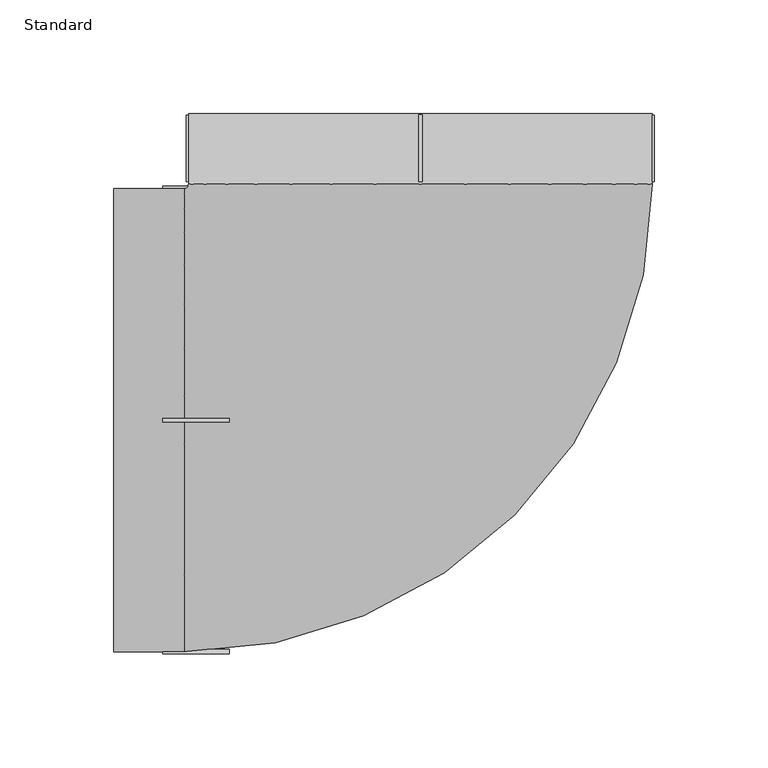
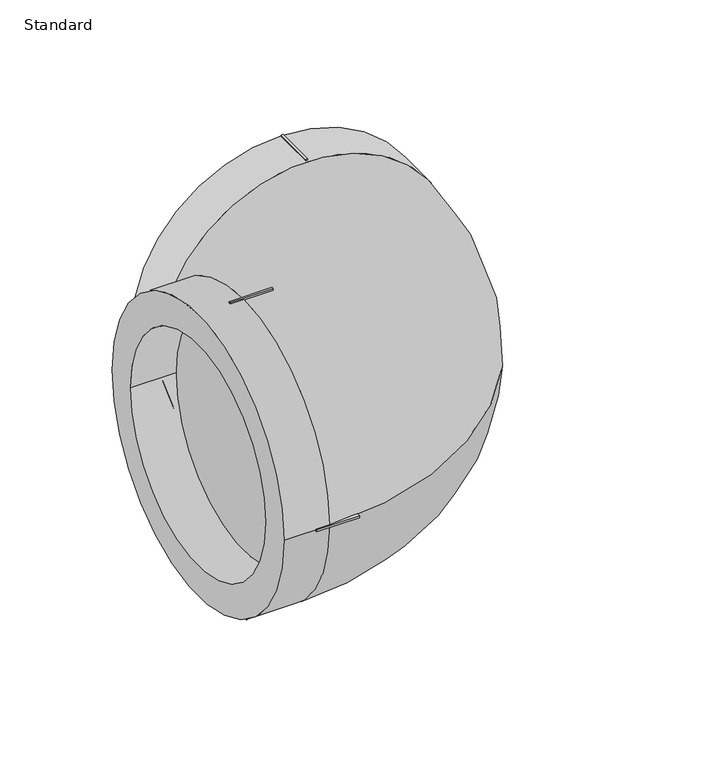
"""IFC4 building model written with IfcOpenShell, lengths in millimetres: pipe fitting geometry, EGB_VASEN_ PPR_Codo 90 WXR200_Codo 45 WXR220  : Standard."""

from ifc_helpers import new_model, si_unit, point, frame, origin, place, context, project, spatial, polyline, circle_curve, ellipse_curve, trimmed, outline, extrude, source, transform, mapped, element, save
from ifc_brep_helpers import plane_surface, cylinder_surface, revolved_surface, advanced_brep


def standard_11483cf7(model_context):
    return source(origin(), model_context, "Body", "SolidModel", [
        advanced_brep(
        [(-135.0, -102.0, 0.0), (-135.0, 102.0, 0.0), (-135.0, -80.0, 0.0), (-135.0, 80.0, 0.0), (-104.0, -102.0, 0.0), (-104.0, 102.0, 0.0), (-104.0, -80.0, 0.0), (-104.0, 80.0, 0.0), (80.0, 104.0, 0.0), (-80.0, 104.0, 0.0), (-102.0, 104.0, 0.0), (102.0, 104.0, 0.0), (0.0, 104.0, 102.0), (0.0, 104.0, -102.0), (102.0, 135.0, 0.0), (-102.0, 135.0, 0.0), (80.0, 135.0, 0.0), (-80.0, 135.0, 0.0)],
        [
            (0, 1, circle_curve(frame((-135.0, 0.0, 0.0), z_axis=(-1.0, 0.0, 0.0), x_axis=(0.0, 1.0, 0.0)), 102.0)),
            (1, 0, circle_curve(frame((-135.0, 0.0, 0.0), z_axis=(-1.0, 0.0, 0.0), x_axis=(0.0, 1.0, 0.0)), 102.0)),
            (2, 3, circle_curve(frame((-135.0, 0.0, 0.0), z_axis=(1.0, 0.0, 0.0), x_axis=(0.0, 1.0, 0.0)), 80.0)),
            (3, 2, circle_curve(frame((-135.0, 0.0, 0.0), z_axis=(1.0, 0.0, 0.0), x_axis=(0.0, 1.0, 0.0)), 80.0)),
            (0, 4),
            (4, 5, circle_curve(frame((-104.0, 0.0, 0.0), z_axis=(-1.0, 0.0, 0.0), x_axis=(0.0, 1.0, 0.0)), 102.0)),
            (5, 1),
            (5, 4, circle_curve(frame((-104.0, 0.0, 0.0), z_axis=(-1.0, 0.0, 0.0), x_axis=(0.0, 1.0, 0.0)), 102.0)),
            (2, 6),
            (6, 7, circle_curve(frame((-104.0, 0.0, 0.0), z_axis=(1.0, 0.0, 0.0), x_axis=(0.0, 1.0, 0.0)), 80.0)),
            (7, 3),
            (7, 6, circle_curve(frame((-104.0, 0.0, 0.0), z_axis=(1.0, 0.0, 0.0), x_axis=(0.0, 1.0, 0.0)), 80.0)),
            (8, 9, circle_curve(frame((0.0, 104.0, 0.0), z_axis=(0.0, 1.0, 0.0), x_axis=(-1.0, 0.0, 0.0)), 80.0)),
            (9, 8, circle_curve(frame((0.0, 104.0, 0.0), z_axis=(0.0, 1.0, 0.0), x_axis=(-1.0, 0.0, 0.0)), 80.0)),
            (10, 5, circle_curve(frame((-104.0, 104.0, 0.0), z_axis=(0.0, 0.0, -1.0), x_axis=(0.0, -1.0, 0.0)), 2.0)),
            (4, 11, circle_curve(frame((-104.0, 104.0, 0.0), z_axis=(0.0, 0.0, 1.0), x_axis=(0.0, -1.0, 0.0)), 206.0)),
            (11, 12, circle_curve(frame((0.0, 104.0, 0.0), z_axis=(0.0, -1.0, 0.0), x_axis=(-1.0, 0.0, 0.0)), 102.0)),
            (12, 10, circle_curve(frame((0.0, 104.0, 0.0), z_axis=(0.0, -1.0, 0.0), x_axis=(-1.0, 0.0, 0.0)), 102.0)),
            (10, 13, circle_curve(frame((0.0, 104.0, 0.0), z_axis=(0.0, -1.0, 0.0), x_axis=(-1.0, 0.0, 0.0)), 102.0)),
            (13, 11, circle_curve(frame((0.0, 104.0, 0.0), z_axis=(0.0, -1.0, 0.0), x_axis=(-1.0, 0.0, 0.0)), 102.0)),
            (14, 15, circle_curve(frame((0.0, 135.0, 0.0), z_axis=(0.0, 1.0, 0.0), x_axis=(-1.0, 0.0, 0.0)), 102.0)),
            (15, 14, circle_curve(frame((0.0, 135.0, 0.0), z_axis=(0.0, 1.0, 0.0), x_axis=(-1.0, 0.0, 0.0)), 102.0)),
            (16, 17, circle_curve(frame((0.0, 135.0, 0.0), z_axis=(0.0, -1.0, 0.0), x_axis=(-1.0, 0.0, 0.0)), 80.0)),
            (17, 16, circle_curve(frame((0.0, 135.0, 0.0), z_axis=(0.0, -1.0, 0.0), x_axis=(-1.0, 0.0, 0.0)), 80.0)),
            (15, 10),
            (11, 14),
            (17, 9),
            (8, 16),
        ],
        [
            plane_surface(frame((-135.0, 0.0, 0.0), z_axis=(-1.0, 0.0, 0.0), x_axis=(0.0, 0.0, 1.0))),
            cylinder_surface(frame((-135.0, 0.0, 0.0), z_axis=(-1.0, 0.0, 0.0), x_axis=(0.0, 1.0, 0.0)), 102.0),
            revolved_surface(polyline([(-104.0, 80.0, 0.0), (-135.0, 80.0, 0.0)]), (-135.0, 0.0, 0.0), (1.0, 0.0, 0.0)),
            plane_surface(frame((-104.0, 0.0, 0.0), z_axis=(-1.0, 0.0, 0.0), x_axis=(0.0, 0.0, 1.0))),
            plane_surface(frame((0.0, 104.0, 0.0), z_axis=(0.0, 1.0, 0.0), x_axis=(0.0, 0.0, 1.0))),
            revolved_surface(trimmed(ellipse_curve(frame((-104.0, 0.0, 0.0), z_axis=(-1.0, 0.0, 0.0), x_axis=(0.0, 1.0, 0.0)), 102.0, 102.0), [point((-104.0, -102.0, 0.0))], [point((-104.0, 102.0, 0.0))], True, "CARTESIAN"), (-104.0, 104.0, 0.0), (0.0, 0.0, 1.0)),
            revolved_surface(trimmed(ellipse_curve(frame((-104.0, 0.0, 0.0), z_axis=(-1.0, 0.0, 0.0), x_axis=(0.0, 1.0, 0.0)), 102.0, 102.0), [point((-104.0, 102.0, 0.0))], [point((-104.0, -102.0, 0.0))], True, "CARTESIAN"), (-104.0, 104.0, 0.0), (0.0, 0.0, 1.0)),
            plane_surface(frame((0.0, 135.0, 0.0), z_axis=(0.0, 1.0, 0.0), x_axis=(0.0, 0.0, 1.0))),
            cylinder_surface(frame((0.0, 104.0, 0.0), z_axis=(0.0, -1.0, 0.0), x_axis=(-1.0, 0.0, 0.0)), 102.0),
            revolved_surface(polyline([(-80.0, 135.0, 0.0), (-80.0, 104.0, 0.0)]), (0.0, 104.0, 0.0), (0.0, 1.0, 0.0)),
        ],
        [
            (0, [[1, 2], [3, 4]]),
            (1, [[-1, 5, 6, 7]]),
            (1, [[-2, -7, 8, -5]]),
            (2, [[-3, 9, 10, 11]]),
            (2, [[-4, -11, 12, -9]]),
            (3, [[-10, -12]]),
            (4, [[13, 14]]),
            (5, [[15, -6, 16, 17, 18]]),
            (6, [[-15, 19, 20, -16, -8]]),
            (7, [[21, 22], [23, 24]]),
            (8, [[-22, 25, -18, -17, 26]]),
            (8, [[-21, -26, -20, -19, -25]]),
            (9, [[-24, 27, -13, 28]]),
            (9, [[-23, -28, -14, -27]]),
        ],
    ),
        extrude(outline(polyline([(0.75, 105.0), (-0.75, 105.0), (-0.75, 134.4), (0.75, 134.4), (0.75, 105.0)])), frame((0.0, 0.0, 101.0), z_axis=(0.0, 0.0, 1.0), x_axis=(1.0, 0.0, 0.0)), (0.0, 0.0, 1.0), 2.0),
        extrude(outline(polyline([(-101.0, 105.0), (-103.0, 105.0), (-103.0, 134.4), (-101.0, 134.4), (-101.0, 105.0)])), frame((0.0, 0.0, -0.75), z_axis=(0.0, 0.0, 1.0), x_axis=(1.0, 0.0, 0.0)), (0.0, 0.0, 1.0), 1.5),
        extrude(outline(polyline([(103.0, 105.0), (101.0, 105.0), (101.0, 134.4), (103.0, 134.4), (103.0, 105.0)])), frame((0.0, 0.0, -0.75), z_axis=(0.0, 0.0, 1.0), x_axis=(1.0, 0.0, 0.0)), (0.0, 0.0, 1.0), 1.5),
        extrude(outline(polyline([(0.75, 105.0), (-0.75, 105.0), (-0.75, 134.4), (0.75, 134.4), (0.75, 105.0)])), frame((0.0, 0.0, -103.0), z_axis=(0.0, 0.0, 1.0), x_axis=(1.0, 0.0, 0.0)), (0.0, 0.0, 1.0), 2.0),
        extrude(outline(polyline([(-84.0, 0.75), (-84.0, -0.75), (-113.4, -0.75), (-113.4, 0.75), (-84.0, 0.75)])), frame((0.0, 0.0, 101.0), z_axis=(0.0, 0.0, 1.0), x_axis=(1.0, 0.0, 0.0)), (0.0, 0.0, 1.0), 2.0),
        extrude(outline(polyline([(-84.0, 0.75), (-84.0, -0.75), (-113.4, -0.75), (-113.4, 0.75), (-84.0, 0.75)])), frame((0.0, 0.0, -103.0), z_axis=(0.0, 0.0, 1.0), x_axis=(1.0, 0.0, 0.0)), (0.0, 0.0, 1.0), 2.0),
        extrude(outline(polyline([(-84.0, 103.0), (-84.0, 101.0), (-113.4, 101.0), (-113.4, 103.0), (-84.0, 103.0)])), frame((0.0, 0.0, -0.75), z_axis=(0.0, 0.0, 1.0), x_axis=(1.0, 0.0, 0.0)), (0.0, 0.0, 1.0), 1.5),
        extrude(outline(polyline([(-84.0, -101.0), (-84.0, -103.0), (-113.4, -103.0), (-113.4, -101.0), (-84.0, -101.0)])), frame((0.0, 0.0, -0.75), z_axis=(0.0, 0.0, 1.0), x_axis=(1.0, 0.0, 0.0)), (0.0, 0.0, 1.0), 1.5),
    ])


if __name__ == "__main__":
    model = new_model("IFC4")
    model_context = context("Model", 3, world=origin())
    ifc_project = project(units=[si_unit("LENGTHUNIT", "METRE", prefix="MILLI")], contexts=[model_context])
    site = spatial("IfcSite", under=ifc_project)
    building = spatial("IfcBuilding", under=site)
    placement = place(None, origin())
    standard_shape = standard_11483cf7(model_context)
    element("IfcPipeFitting", 1, ObjectType="EGB_VASEN_ PPR_Codo 90 WXR200_Codo 45 WXR220  : Standard", at=placement, inside=building, context=model_context, shape_type="MappedRepresentation", body=[
        mapped(standard_shape, transform((0.0, 0.0, 0.0), x_axis=(1.0, 0.0, 0.0), y_axis=(0.0, 1.0, 0.0), z_axis=(0.0, 0.0, 1.0))),
    ])
    save(model, "model.ifc")
